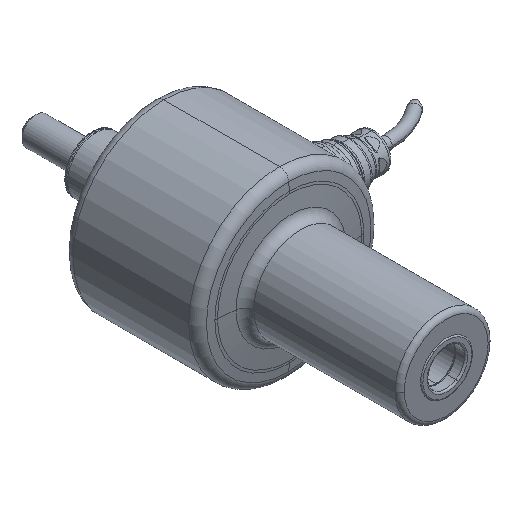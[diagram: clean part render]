
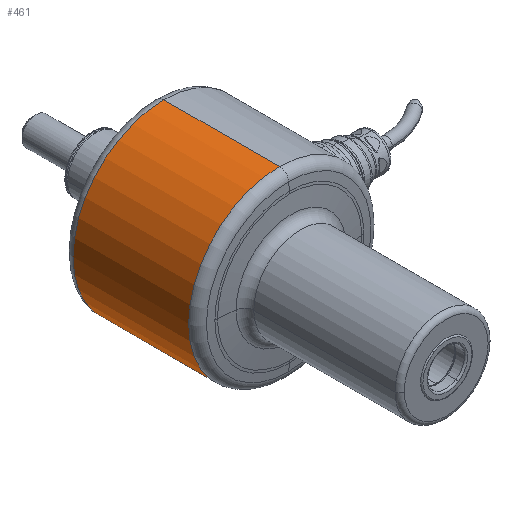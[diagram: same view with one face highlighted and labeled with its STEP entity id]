
A CAD part, isometric view. The second image highlights one B-rep face of the part: STEP entity #461.
In plain terms, the highlighted cylindrical face has radius 39 mm (diameter 78 mm), a partial arc.
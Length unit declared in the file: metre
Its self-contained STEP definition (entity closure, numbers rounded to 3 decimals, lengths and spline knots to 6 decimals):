
#461=ADVANCED_FACE('0:624',(#776),#777,.T.);
#776=FACE_OUTER_BOUND('',#1167,.T.);
#777=CYLINDRICAL_SURFACE('',#1168,0.039);
#1167=EDGE_LOOP('',(#2041,#2042,#2043,#2044));
#1168=AXIS2_PLACEMENT_3D('',#2045,#2046,#2047);
#2041=ORIENTED_EDGE('',*,*,#2745,.T.);
#2042=ORIENTED_EDGE('',*,*,#2766,.T.);
#2043=ORIENTED_EDGE('',*,*,#2747,.T.);
#2044=ORIENTED_EDGE('',*,*,#2769,.T.);
#2045=CARTESIAN_POINT('',(0.0,0.112,0.0));
#2046=DIRECTION('',(0.0,-1.0,0.0));
#2047=DIRECTION('',(0.0,0.0,1.0));
#2745=EDGE_CURVE('',#3208,#3209,#3210,.T.);
#2747=EDGE_CURVE('',#3213,#3211,#3214,.T.);
#2766=EDGE_CURVE('0:642',#3209,#3213,#3241,.T.);
#2769=EDGE_CURVE('0:651',#3211,#3208,#3244,.T.);
#3208=VERTEX_POINT('',#3805);
#3209=VERTEX_POINT('',#3806);
#3210=LINE('',#3807,#3808);
#3211=VERTEX_POINT('',#3809);
#3213=VERTEX_POINT('',#3811);
#3214=LINE('',#3812,#3813);
#3241=CIRCLE('',#4032,0.039);
#3244=CIRCLE('',#4035,0.039);
#3805=CARTESIAN_POINT('',(0.,0.015665,0.039));
#3806=CARTESIAN_POINT('',(0.,0.065335,0.039));
#3807=CARTESIAN_POINT('',(0.,0.0405,0.039));
#3808=VECTOR('',#4899,1.0);
#3809=CARTESIAN_POINT('',(0.,0.015665,-0.039));
#3811=CARTESIAN_POINT('',(0.,0.065335,-0.039));
#3812=CARTESIAN_POINT('',(0.,0.0405,-0.039));
#3813=VECTOR('',#4903,1.0);
#4032=AXIS2_PLACEMENT_3D('',#4934,#4935,#4936);
#4035=AXIS2_PLACEMENT_3D('',#4943,#4944,#4945);
#4899=DIRECTION('',(0.0,1.0,-0.0));
#4903=DIRECTION('',(0.0,-1.0,0.0));
#4934=CARTESIAN_POINT('',(0.0,0.065335,0.0));
#4935=DIRECTION('',(0.0,-1.0,0.0));
#4936=DIRECTION('',(0.0,0.0,-1.0));
#4943=CARTESIAN_POINT('',(0.0,0.015665,0.0));
#4944=DIRECTION('',(0.0,1.0,0.0));
#4945=DIRECTION('',(0.0,0.0,-1.0));
